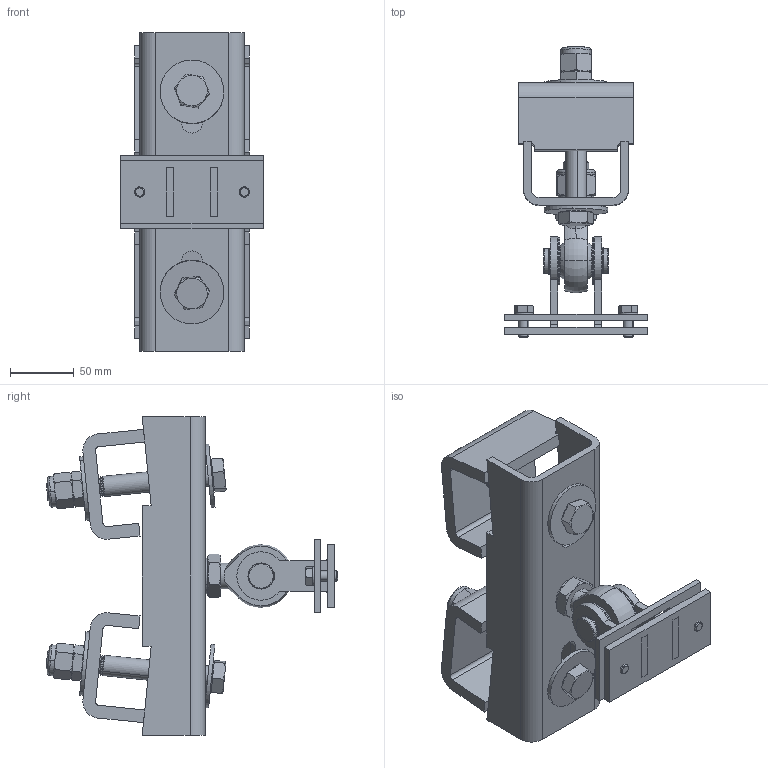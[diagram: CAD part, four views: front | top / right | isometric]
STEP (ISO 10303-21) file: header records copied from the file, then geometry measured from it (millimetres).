
FILE_DESCRIPTION (( 'STEP AP214' ), '1' );
FILE_NAME ('900.100.113.STEP', '2015-02-23T15:38:33', ( '' ), ( '' ), 'SwSTEP 2.0', 'SolidWorks 2012', '' );
FILE_SCHEMA (( 'AUTOMOTIVE_DESIGN' ));
Length unit declared in the file: millimetre
Products named in the file (21): 900.100.103; hex bolt gradeab_iso_ISO 4014 - M16 x 130 x 44-S; SNODO PFE 20U; DADO ESAGONALE M20 AUTOBLOCCANTE_M20 UNI7473; RONDELLE UNI 6592_20x28 UNI6592; plain washer large_din_Washer DIN 9021 - 10.5; hex thin nut chamfered gradeab_iso_Hexagon Thin Nut ISO - 4035 - M16 - N; torque nut 01_iso_ISO 7040-M16-N; curved spring lock washer_din_PreviewCfg; 900.100.102; 900.100.020; 900.100.004-1; 900.100.002-1; VITI TE UNI 5739_M8x20 UNI 5739; 900.100.005; 900.100.021; RONDELLA 20 (21-37-1.5); curved spring lock washer_din_Spring washer DIN 128 - A10; circlip for shafts normal_din_Circlip DIN 471 - 15 x 1; 900.100.113; hex thin nut chamfered gradeab_iso_Hexagon Thin Nut ISO - 4035 - M20 - N
Assembly tree (31 placements, depth 3):
  900.100.113
    900.100.020
    900.100.002-1  x2
    900.100.102
      900.100.004-1
      900.100.005
      VITI TE UNI 5739_M8x20 UNI 5739  x2
      RONDELLA 20 (21-37-1.5)  x2
      900.100.021
      circlip for shafts normal_din_Circlip DIN 471 - 15 x 1  x2
      curved spring lock washer_din_Spring washer DIN 128 - A10
      curved spring lock washer_din_PreviewCfg
    900.100.103
      hex thin nut chamfered gradeab_iso_Hexagon Thin Nut ISO - 4035 - M20 - N
      DADO ESAGONALE M20 AUTOBLOCCANTE_M20 UNI7473
      RONDELLE UNI 6592_20x28 UNI6592  x2
      SNODO PFE 20U
    hex bolt gradeab_iso_ISO 4014 - M16 x 130 x 44-S  x2
    plain washer large_din_Washer DIN 9021 - 10.5  x4
    hex thin nut chamfered gradeab_iso_Hexagon Thin Nut ISO - 4035 - M16 - N  x2
    torque nut 01_iso_ISO 7040-M16-N  x2
Bounding box: 112 x 229.13 x 250 mm (x, y, z)
Volume: 746803 mm3; surface area: 254824.8 mm2
Topology: 31 solids, 31 shells, 841 faces, 2035 edges, 1266 vertices
Faces by surface type: cone 308, cylinder 267, plane 237, torus 29
Entity records: 17177 total; most frequent: CARTESIAN_POINT 3449, DIRECTION 2831, ORIENTED_EDGE 2534, EDGE_CURVE 1267, AXIS2_PLACEMENT_3D 1144, VERTEX_POINT 790, CIRCLE 584, EDGE_LOOP 575
